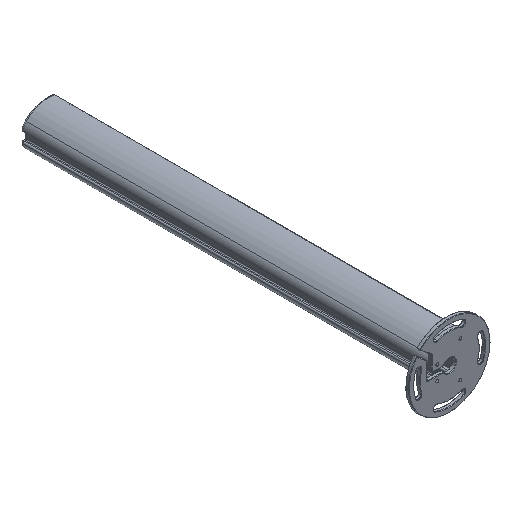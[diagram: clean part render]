
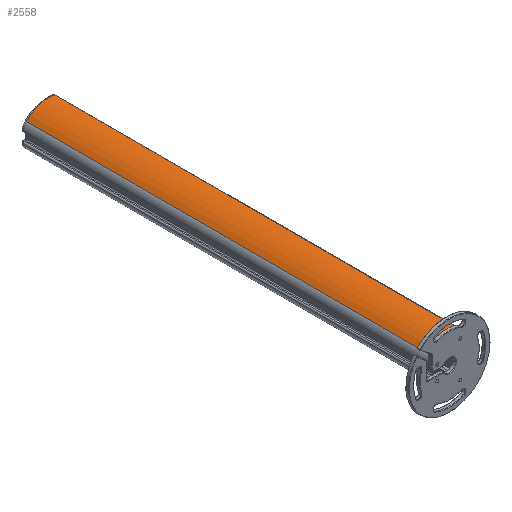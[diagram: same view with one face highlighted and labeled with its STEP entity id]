
A CAD part, isometric view. The second image highlights one B-rep face of the part: STEP entity #2558.
In plain terms, the highlighted cylindrical face has radius 79.059 mm (diameter 158.118 mm), a partial arc.
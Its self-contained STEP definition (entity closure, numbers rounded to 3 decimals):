
#72=CARTESIAN_POINT('',(24.886,-475.,-29.268));
#73=DIRECTION('',(0.,1.,0.));
#74=DIRECTION('',(-0.694,0.,0.72));
#75=AXIS2_PLACEMENT_3D('',#72,#73,#74);
#646=DIRECTION('',(0.,1.,0.));
#647=VECTOR('',#646,950.);
#648=CARTESIAN_POINT('',(35.448,-475.,49.083));
#649=LINE('',#648,#647);
#650=DIRECTION('',(0.,1.,0.));
#651=VECTOR('',#650,950.);
#652=CARTESIAN_POINT('',(-30.018,-475.,27.617));
#653=LINE('',#652,#651);
#1015=CARTESIAN_POINT('',(24.886,475.,-29.268));
#1016=DIRECTION('',(0.,1.,0.));
#1017=DIRECTION('',(-0.694,0.,0.72));
#1018=AXIS2_PLACEMENT_3D('',#1015,#1016,#1017);
#1116=CARTESIAN_POINT('',(-30.018,-475.,27.617));
#1117=VERTEX_POINT('',#1116);
#1118=CARTESIAN_POINT('',(35.448,-475.,49.083));
#1119=VERTEX_POINT('',#1118);
#1282=CARTESIAN_POINT('',(-30.018,475.,27.617));
#1283=VERTEX_POINT('',#1282);
#1284=CARTESIAN_POINT('',(35.448,475.,49.083));
#1285=VERTEX_POINT('',#1284);
#2545=CARTESIAN_POINT('',(24.886,-475.,-29.268));
#2546=DIRECTION('',(0.,1.,0.));
#2547=DIRECTION('',(1.,0.,0.));
#2548=AXIS2_PLACEMENT_3D('',#2545,#2546,#2547);
#2549=CYLINDRICAL_SURFACE('',#2548,79.059);
#2550=ORIENTED_EDGE('',*,*,#1453,.F.);
#2552=ORIENTED_EDGE('',*,*,#2551,.T.);
#2554=ORIENTED_EDGE('',*,*,#2553,.T.);
#2555=ORIENTED_EDGE('',*,*,#2537,.F.);
#2556=EDGE_LOOP('',(#2550,#2552,#2554,#2555));
#2557=FACE_OUTER_BOUND('',#2556,.F.);
#2558=ADVANCED_FACE('',(#2557),#2549,.T.);
#76=CIRCLE('',#75,79.059);
#1019=CIRCLE('',#1018,79.059);
#1453=EDGE_CURVE('',#1117,#1119,#76,.T.);
#2537=EDGE_CURVE('',#1119,#1285,#649,.T.);
#2551=EDGE_CURVE('',#1117,#1283,#653,.T.);
#2553=EDGE_CURVE('',#1283,#1285,#1019,.T.);
